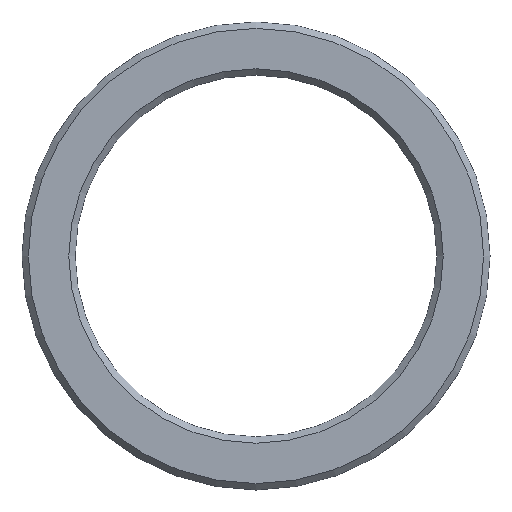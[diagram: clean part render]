
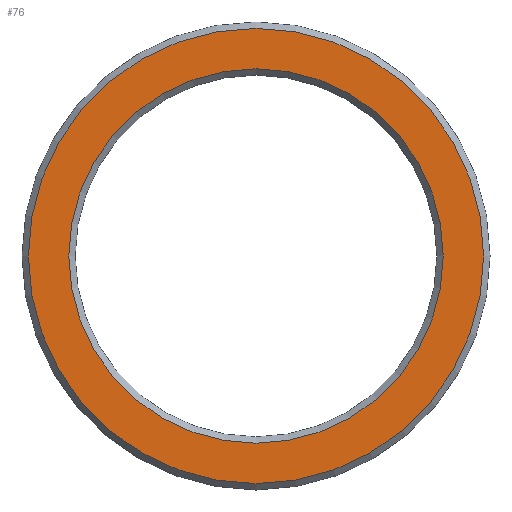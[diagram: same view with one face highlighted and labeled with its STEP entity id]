
A CAD part, left-side view. The second image highlights one B-rep face of the part: STEP entity #76.
In plain terms, the highlighted planar face has unit normal (-1, 0, 0).
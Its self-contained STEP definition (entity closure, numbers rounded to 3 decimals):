
#17=PLANE('',#86);
#20=FACE_BOUND('',#34,.T.);
#26=FACE_OUTER_BOUND('',#33,.T.);
#33=EDGE_LOOP('',(#63));
#34=EDGE_LOOP('',(#64));
#44=CIRCLE('',#85,44.);
#45=CIRCLE('',#87,53.5);
#50=VERTEX_POINT('',#125);
#51=VERTEX_POINT('',#128);
#56=EDGE_CURVE('',#50,#50,#44,.T.);
#57=EDGE_CURVE('',#51,#51,#45,.T.);
#63=ORIENTED_EDGE('',*,*,#57,.F.);
#64=ORIENTED_EDGE('',*,*,#56,.F.);
#76=ADVANCED_FACE('',(#26,#20),#17,.T.);
#85=AXIS2_PLACEMENT_3D('',#126,#101,#102);
#86=AXIS2_PLACEMENT_3D('',#127,#103,#104);
#87=AXIS2_PLACEMENT_3D('',#129,#105,#106);
#101=DIRECTION('center_axis',(-1.,0.,0.));
#102=DIRECTION('ref_axis',(0.,-1.,0.));
#103=DIRECTION('center_axis',(-1.,0.,0.));
#104=DIRECTION('ref_axis',(0.,0.,1.));
#105=DIRECTION('center_axis',(1.,0.,0.));
#106=DIRECTION('ref_axis',(0.,-1.,0.));
#125=CARTESIAN_POINT('',(0.,44.,0.));
#126=CARTESIAN_POINT('Origin',(0.,0.,0.));
#127=CARTESIAN_POINT('Origin',(0.,55.,0.));
#128=CARTESIAN_POINT('',(0.,53.5,0.));
#129=CARTESIAN_POINT('Origin',(0.,0.,0.));
